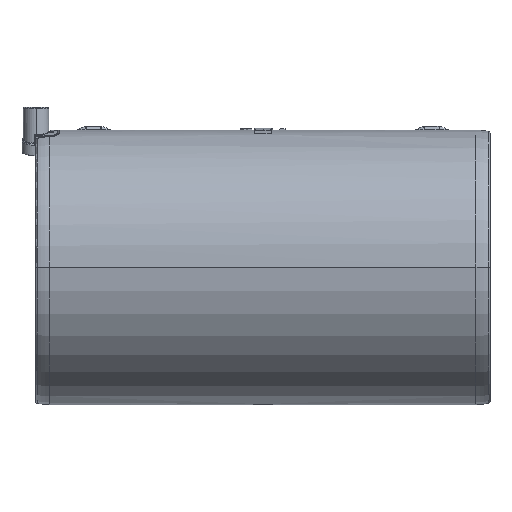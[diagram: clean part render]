
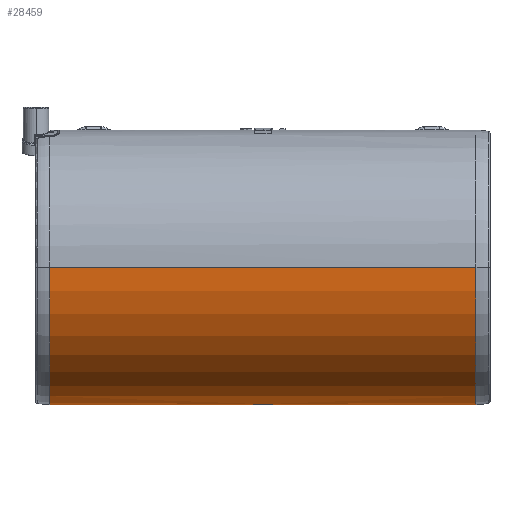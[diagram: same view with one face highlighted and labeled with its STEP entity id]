
A CAD part, top view. The second image highlights one B-rep face of the part: STEP entity #28459.
In plain terms, the highlighted cylindrical face has radius 75.1 mm (diameter 150.2 mm), a partial arc.
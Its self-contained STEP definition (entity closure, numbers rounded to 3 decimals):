
#1671 = CARTESIAN_POINT ( 'NONE',  ( 14.695, -74.916, 5.259 ) ) ;
#1872 = CARTESIAN_POINT ( 'NONE',  ( 22.653, -75.028, 3.333 ) ) ;
#1947 = CARTESIAN_POINT ( 'NONE',  ( 13.325, -74.983, 4.199 ) ) ;
#2275 = CARTESIAN_POINT ( 'NONE',  ( 11.614, -75.1, 0.71 ) ) ;
#3221 = CARTESIAN_POINT ( 'NONE',  ( -99.005, -75.1, 0. ) ) ;
#4269 = CARTESIAN_POINT ( 'NONE',  ( 15.898, -74.879, 5.764 ) ) ;
#4281 = EDGE_CURVE ( 'NONE', #27841, #31535, #37435, .T. ) ;
#4560 = CARTESIAN_POINT ( 'NONE',  ( 16.744, -74.864, 5.951 ) ) ;
#4574 = VERTEX_POINT ( 'NONE', #3221 ) ;
#5596 = B_SPLINE_CURVE_WITH_KNOTS ( 'NONE', 3,
 ( #29132, #37195, #32882, #54812, #37760, #46148, #2275, #55382 ),
 .UNSPECIFIED., .F., .F.,
 ( 4, 2, 2, 4 ),
 ( 0., 0.001, 0.002, 0.004 ),
 .UNSPECIFIED. ) ;
#7056 = CARTESIAN_POINT ( 'NONE',  ( 11.614, -75.1, 0. ) ) ;
#7356 = CARTESIAN_POINT ( 'NONE',  ( 22.195, -75., 3.874 ) ) ;
#7846 = CARTESIAN_POINT ( 'NONE',  ( -89.391, -75.1, 0. ) ) ;
#8254 = EDGE_CURVE ( 'NONE', #13969, #22758, #8331, .T. ) ;
#8331 = LINE ( 'NONE', #21874, #56561 ) ;
#9068 = VERTEX_POINT ( 'NONE', #44552 ) ;
#9756 = CIRCLE ( 'NONE', #16193, 75.1 ) ;
#10036 = CARTESIAN_POINT ( 'NONE',  ( -89.391, -75., 3.874 ) ) ;
#10206 = CARTESIAN_POINT ( 'NONE',  ( 22.193, -75., 3.874 ) ) ;
#10241 = ORIENTED_EDGE ( 'NONE', *, *, #25212, .F. ) ;
#11405 = DIRECTION ( 'NONE',  ( 0., 0., 1. ) ) ;
#13969 = VERTEX_POINT ( 'NONE', #17499 ) ;
#15049 = B_SPLINE_CURVE_WITH_KNOTS ( 'NONE', 3,
 ( #26515, #35159, #44112, #21579, #30272, #26214, #47872, #25936, #43544, #39189, #4560, #4269, #17540, #1671, #41480, #49595, #36304, #1947, #44679, #45816 ),
 .UNSPECIFIED., .F., .F.,
 ( 4, 2, 2, 2, 2, 2, 2, 2, 2, 4 ),
 ( 0.004, 0.005, 0.007, 0.008, 0.009, 0.011, 0.012, 0.013, 0.014, 0.015 ),
 .UNSPECIFIED. ) ;
#15082 = ORIENTED_EDGE ( 'NONE', *, *, #51390, .T. ) ;
#15312 = ORIENTED_EDGE ( 'NONE', *, *, #17915, .F. ) ;
#16193 = AXIS2_PLACEMENT_3D ( 'NONE', #56716, #17142, #34481 ) ;
#17142 = DIRECTION ( 'NONE',  ( -1., 0., 0. ) ) ;
#17499 = CARTESIAN_POINT ( 'NONE',  ( 23.614, -75.1, 0. ) ) ;
#17540 = CARTESIAN_POINT ( 'NONE',  ( 15.488, -74.889, 5.626 ) ) ;
#17815 = CARTESIAN_POINT ( 'NONE',  ( 23.614, -75.1, 0.355 ) ) ;
#17915 = EDGE_CURVE ( 'NONE', #42313, #9068, #24657, .T. ) ;
#21049 = ORIENTED_EDGE ( 'NONE', *, *, #4281, .T. ) ;
#21579 = CARTESIAN_POINT ( 'NONE',  ( 20.909, -74.932, 5.031 ) ) ;
#21874 = CARTESIAN_POINT ( 'NONE',  ( -89.391, -75.1, 0. ) ) ;
#22200 = CARTESIAN_POINT ( 'NONE',  ( 134.233, -75.1, 0. ) ) ;
#22758 = VERTEX_POINT ( 'NONE', #22200 ) ;
#23026 = EDGE_CURVE ( 'NONE', #54903, #54861, #5596, .T. ) ;
#23791 = CARTESIAN_POINT ( 'NONE',  ( 23.46, -75.088, 1.393 ) ) ;
#24107 = FACE_OUTER_BOUND ( 'NONE', #49538, .T. ) ;
#24192 = VECTOR ( 'NONE', #54466, 1000. ) ;
#24547 = EDGE_CURVE ( 'NONE', #22758, #9068, #54691, .T. ) ;
#24657 = LINE ( 'NONE', #37637, #29893 ) ;
#25212 = EDGE_CURVE ( 'NONE', #27841, #33899, #15049, .T. ) ;
#25757 = DIRECTION ( 'NONE',  ( 1., 0., 0. ) ) ;
#25936 = CARTESIAN_POINT ( 'NONE',  ( 18.48, -74.864, 5.952 ) ) ;
#26214 = CARTESIAN_POINT ( 'NONE',  ( 19.747, -74.889, 5.623 ) ) ;
#26515 = CARTESIAN_POINT ( 'NONE',  ( 22.193, -75., 3.874 ) ) ;
#26791 = CARTESIAN_POINT ( 'NONE',  ( 23.369, -75.081, 1.734 ) ) ;
#27841 = VERTEX_POINT ( 'NONE', #10206 ) ;
#28459 = ADVANCED_FACE ( 'NONE', ( #24107 ), #50666, .T. ) ;
#28633 = EDGE_CURVE ( 'NONE', #4574, #42313, #9756, .T. ) ;
#29132 = CARTESIAN_POINT ( 'NONE',  ( 13.032, -75., 3.874 ) ) ;
#29562 = DIRECTION ( 'NONE',  ( 1., 0., 0. ) ) ;
#29811 = AXIS2_PLACEMENT_3D ( 'NONE', #49797, #54129, #41123 ) ;
#29893 = VECTOR ( 'NONE', #29562, 1000. ) ;
#30272 = CARTESIAN_POINT ( 'NONE',  ( 20.531, -74.916, 5.259 ) ) ;
#31005 = ORIENTED_EDGE ( 'NONE', *, *, #28633, .F. ) ;
#31201 = CARTESIAN_POINT ( 'NONE',  ( 13.034, -75., 3.874 ) ) ;
#31535 = VERTEX_POINT ( 'NONE', #7356 ) ;
#32371 = VECTOR ( 'NONE', #33129, 1000. ) ;
#32463 = CARTESIAN_POINT ( 'NONE',  ( 23.003, -75.053, 2.73 ) ) ;
#32882 = CARTESIAN_POINT ( 'NONE',  ( 12.602, -75.027, 3.317 ) ) ;
#33129 = DIRECTION ( 'NONE',  ( 1., 0., 0. ) ) ;
#33350 = CARTESIAN_POINT ( 'NONE',  ( -89.391, 0., 0. ) ) ;
#33899 = VERTEX_POINT ( 'NONE', #31201 ) ;
#34235 = B_SPLINE_CURVE_WITH_KNOTS ( 'NONE', 3,
 ( #48714, #17815, #54401, #23791, #26791, #32463, #1872, #35437 ),
 .UNSPECIFIED., .F., .F.,
 ( 4, 2, 2, 4 ),
 ( 0., 0.001, 0.002, 0.004 ),
 .UNSPECIFIED. ) ;
#34358 = ORIENTED_EDGE ( 'NONE', *, *, #50179, .T. ) ;
#34411 = LINE ( 'NONE', #7846, #53878 ) ;
#34481 = DIRECTION ( 'NONE',  ( 0., 0., 1. ) ) ;
#35159 = CARTESIAN_POINT ( 'NONE',  ( 21.912, -74.983, 4.207 ) ) ;
#35437 = CARTESIAN_POINT ( 'NONE',  ( 22.195, -75., 3.874 ) ) ;
#36304 = CARTESIAN_POINT ( 'NONE',  ( 13.641, -74.965, 4.5 ) ) ;
#37195 = CARTESIAN_POINT ( 'NONE',  ( 12.803, -75.014, 3.604 ) ) ;
#37435 = LINE ( 'NONE', #55064, #32371 ) ;
#37637 = CARTESIAN_POINT ( 'NONE',  ( -89.391, 0., 75.1 ) ) ;
#37760 = CARTESIAN_POINT ( 'NONE',  ( 12.1, -75.063, 2.393 ) ) ;
#39189 = CARTESIAN_POINT ( 'NONE',  ( 17.184, -74.86, 5.999 ) ) ;
#39635 = ORIENTED_EDGE ( 'NONE', *, *, #24547, .T. ) ;
#39701 = ORIENTED_EDGE ( 'NONE', *, *, #23026, .F. ) ;
#41123 = DIRECTION ( 'NONE',  ( 0., 0., 1. ) ) ;
#41480 = CARTESIAN_POINT ( 'NONE',  ( 14.322, -74.932, 5.033 ) ) ;
#42313 = VERTEX_POINT ( 'NONE', #55097 ) ;
#42894 = AXIS2_PLACEMENT_3D ( 'NONE', #33350, #46327, #11405 ) ;
#43544 = CARTESIAN_POINT ( 'NONE',  ( 18.05, -74.86, 5.998 ) ) ;
#44112 = CARTESIAN_POINT ( 'NONE',  ( 21.598, -74.965, 4.505 ) ) ;
#44552 = CARTESIAN_POINT ( 'NONE',  ( 134.233, 0., 75.1 ) ) ;
#44679 = CARTESIAN_POINT ( 'NONE',  ( 13.174, -74.991, 4.04 ) ) ;
#45235 = LINE ( 'NONE', #10036, #24192 ) ;
#45816 = CARTESIAN_POINT ( 'NONE',  ( 13.034, -75., 3.874 ) ) ;
#46148 = CARTESIAN_POINT ( 'NONE',  ( 11.736, -75.09, 1.396 ) ) ;
#46327 = DIRECTION ( 'NONE',  ( -1., 0., 0. ) ) ;
#46603 = CARTESIAN_POINT ( 'NONE',  ( 13.032, -75., 3.874 ) ) ;
#46760 = ORIENTED_EDGE ( 'NONE', *, *, #46963, .F. ) ;
#46963 = EDGE_CURVE ( 'NONE', #13969, #31535, #34235, .T. ) ;
#47872 = CARTESIAN_POINT ( 'NONE',  ( 19.336, -74.879, 5.763 ) ) ;
#48714 = CARTESIAN_POINT ( 'NONE',  ( 23.614, -75.1, 0. ) ) ;
#49538 = EDGE_LOOP ( 'NONE', ( #10241, #21049, #46760, #51386, #39635, #15312, #31005, #15082, #39701, #34358 ) ) ;
#49595 = CARTESIAN_POINT ( 'NONE',  ( 13.806, -74.957, 4.64 ) ) ;
#49797 = CARTESIAN_POINT ( 'NONE',  ( 134.233, 0., 0. ) ) ;
#50179 = EDGE_CURVE ( 'NONE', #54903, #33899, #45235, .T. ) ;
#50666 = CYLINDRICAL_SURFACE ( 'NONE', #42894, 75.1 ) ;
#51386 = ORIENTED_EDGE ( 'NONE', *, *, #8254, .T. ) ;
#51390 = EDGE_CURVE ( 'NONE', #4574, #54861, #34411, .T. ) ;
#53878 = VECTOR ( 'NONE', #25757, 1000. ) ;
#54129 = DIRECTION ( 'NONE',  ( -1., 0., 0. ) ) ;
#54401 = CARTESIAN_POINT ( 'NONE',  ( 23.583, -75.097, 0.704 ) ) ;
#54466 = DIRECTION ( 'NONE',  ( 1., 0., 0. ) ) ;
#54691 = CIRCLE ( 'NONE', #29811, 75.1 ) ;
#54812 = CARTESIAN_POINT ( 'NONE',  ( 12.251, -75.052, 2.712 ) ) ;
#54861 = VERTEX_POINT ( 'NONE', #7056 ) ;
#54903 = VERTEX_POINT ( 'NONE', #46603 ) ;
#55064 = CARTESIAN_POINT ( 'NONE',  ( -89.391, -75., 3.874 ) ) ;
#55097 = CARTESIAN_POINT ( 'NONE',  ( -99.005, 0., 75.1 ) ) ;
#55382 = CARTESIAN_POINT ( 'NONE',  ( 11.614, -75.1, 0. ) ) ;
#56561 = VECTOR ( 'NONE', #56844, 1000. ) ;
#56716 = CARTESIAN_POINT ( 'NONE',  ( -99.005, 0., 0. ) ) ;
#56844 = DIRECTION ( 'NONE',  ( 1., 0., 0. ) ) ;
